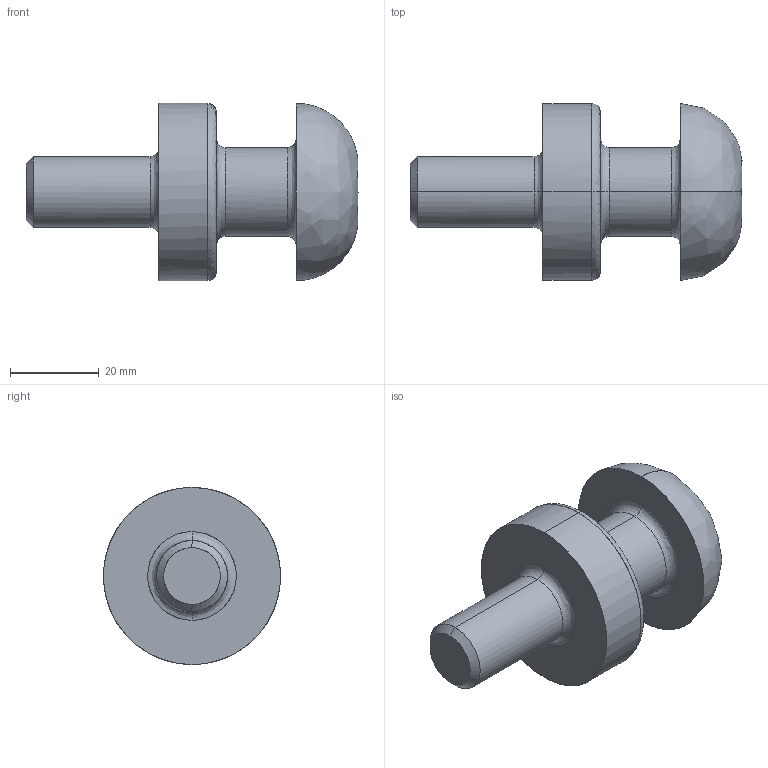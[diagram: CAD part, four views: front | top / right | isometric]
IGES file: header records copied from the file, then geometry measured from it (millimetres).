
Global section: file name: E:\UnigraphicsGraphicData\MISUMI_PRESS-PARTS\IGES\3d_chn16_03542_r00.igs; native system: NX V5.0; preprocessor: UGS NX IGES V5.0; author: MISUMI; date: 20110105.160220; units: millimetre
Bounding box: 74.96 x 40 x 40 mm (x, y, z)
Surface area: 9717 mm2 (no closed solid volume)
Topology: 0 solids, 0 shells, 29 faces, 192 edges, 192 vertices
Faces by surface type: bspline 29
